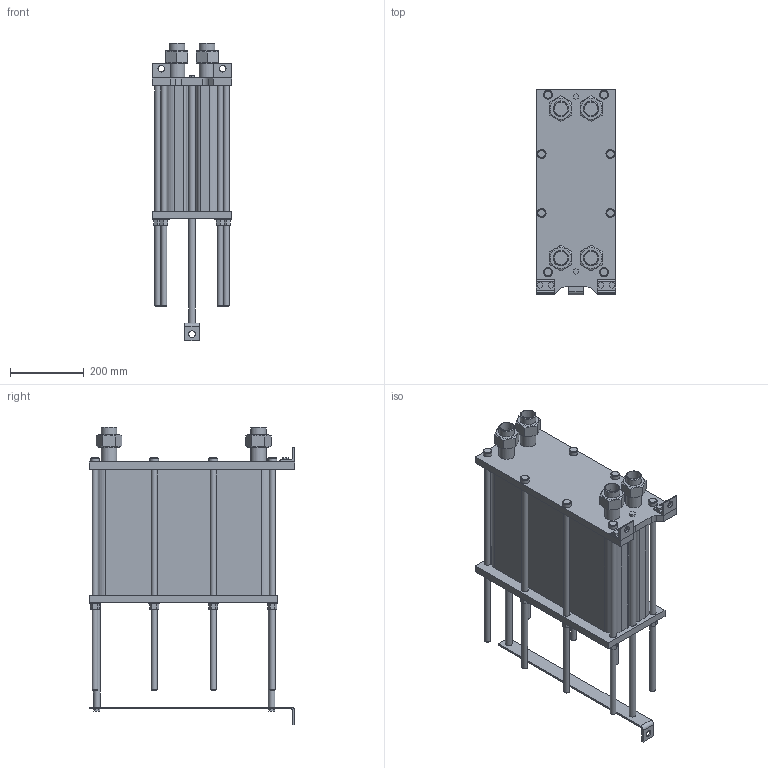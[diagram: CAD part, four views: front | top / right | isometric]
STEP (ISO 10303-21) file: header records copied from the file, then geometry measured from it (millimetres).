
FILE_DESCRIPTION(/* description */ (''),/* implementation_level */ '2;1');
FILE_NAME(/* name */ 'C:\Users\zhuro\Desktop\ENCO\TO\ЭН-004\ЭН-0,5-004-110-1.stp',/* time_stamp */ '2022-06-06T10:53:29+03:00',/* author */ ('zhuro'),/* organization */ (''),/* preprocessor_version */ 'ST-DEVELOPER v18.1',/* originating_system */ 'Autodesk Inventor 2022',/* authorisation */ '');
FILE_SCHEMA (('AUTOMOTIVE_DESIGN { 1 0 10303 214 3 1 1 }'));
Length unit declared in the file: millimetre
Products named in the file (1): ЭН-0,5-004-110-1
Bounding box: 216 x 555 x 805 mm (x, y, z)
Volume: 31363335.3 mm3; surface area: 1696972.4 mm2
Topology: 40 solids, 40 shells, 403 faces, 865 edges, 574 vertices
Faces by surface type: plane 272, cylinder 103, cone 28
Full cylindrical faces by diameter (mm): 10 x4, 16 x16, 18 x29, 20 x2, 24 x8, 28 x8, 36.3 x5, 42.3 x9
Entity records: 11137 total; most frequent: CARTESIAN_POINT 1939, DIRECTION 1879, ORIENTED_EDGE 1730, EDGE_CURVE 865, AXIS2_PLACEMENT_3D 658, VERTEX_POINT 574, LINE 563, VECTOR 563
